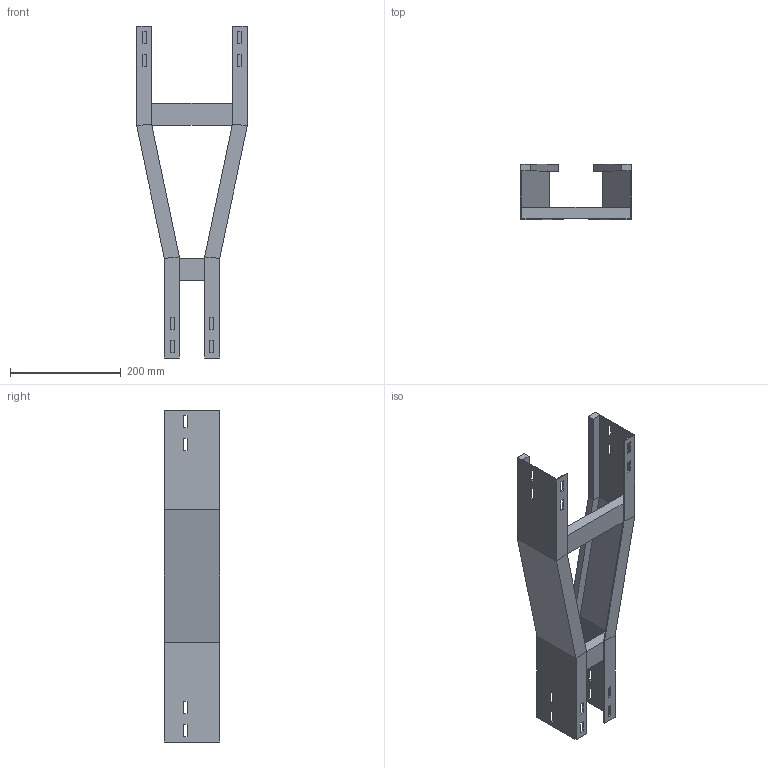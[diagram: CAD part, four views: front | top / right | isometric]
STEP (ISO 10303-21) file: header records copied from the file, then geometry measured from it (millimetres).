
FILE_DESCRIPTION (( 'STEP AP214' ), '1' );
FILE_NAME ('B2X20B1D200XX.step', '2025-09-02T17:13:38', ( '' ), ( '' ), 'SwSTEP 2.0', 'SolidWorks 2023', '' );
FILE_SCHEMA (( 'AUTOMOTIVE_DESIGN' ));
Length unit declared in the file: millimetre
Products named in the file (4): SPONDA RID. CENTRALE 200-100_H100; TRAVERSINO_100; TRAVERSINO_200; B2X20B1D200XX
Assembly tree (3 placements, depth 2):
  B2X20B1D200XX
    SPONDA RID. CENTRALE 200-100_H100
    TRAVERSINO_100
    TRAVERSINO_200
Bounding box: 200 x 100 x 600 mm (x, y, z)
Volume: 766547.3 mm3; surface area: 383415.5 mm2
Topology: 4 solids, 4 shells, 128 faces, 328 edges, 208 vertices
Faces by surface type: plane 128
Entity records: 3950 total; most frequent: CARTESIAN_POINT 670, ORIENTED_EDGE 656, DIRECTION 596, EDGE_CURVE 328, LINE 328, VECTOR 328, VERTEX_POINT 208, EDGE_LOOP 160
